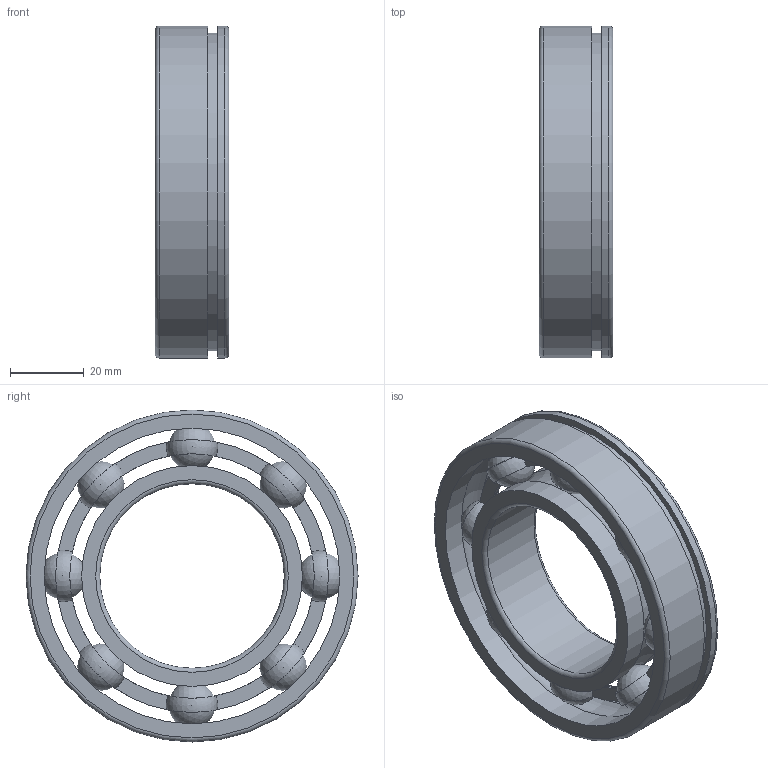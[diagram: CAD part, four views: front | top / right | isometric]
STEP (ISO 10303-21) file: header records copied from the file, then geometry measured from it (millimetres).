
FILE_DESCRIPTION(/* description */ (''),/* implementation_level */ '2;1');
FILE_NAME(/* name */ 'D:\moje\parametrické\62--\rada62--\62--\6210N.stp',/* time_stamp */ '2016-01-21T12:47:18+01:00',/* author */ ('OUBALASKO'),/* organization */ (''),/* preprocessor_version */ 'ST-DEVELOPER v15.2',/* originating_system */ 'Autodesk Inventor 2014',/* authorisation */ '');
FILE_SCHEMA (('AUTOMOTIVE_DESIGN { 1 0 10303 214 3 1 1 }'));
Length unit declared in the file: millimetre
Products named in the file (5): 6210-02; 6210-ball; 6210-cage; 6210-01N; 6210N
Bounding box: 20 x 90 x 90 mm (x, y, z)
Volume: 48656.2 mm3; surface area: 31764.1 mm2
Topology: 12 solids, 12 shells, 96 faces, 354 edges, 232 vertices
Faces by surface type: sphere 40, plane 38, cylinder 12, torus 6
Full cylindrical faces by diameter (mm): 50 x1, 59.84 x2, 66.19 x2, 73.81 x2, 80.16 x2, 86.2 x1, 90 x2
Entity records: 2416 total; most frequent: CARTESIAN_POINT 1011, DIRECTION 314, ORIENTED_EDGE 234, AXIS2_PLACEMENT_3D 157, EDGE_CURVE 117, VERTEX_POINT 86, CIRCLE 85, EDGE_LOOP 77
